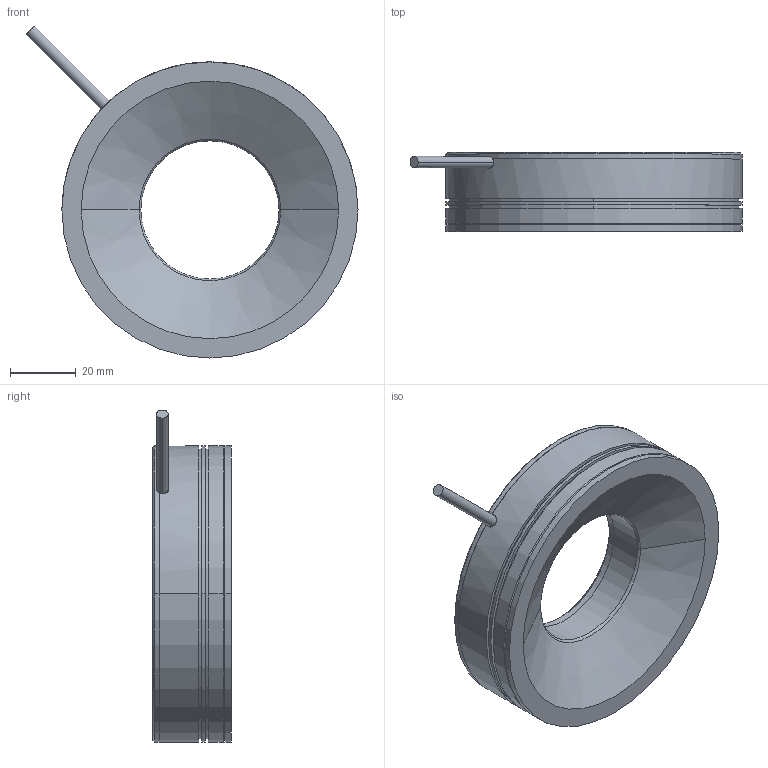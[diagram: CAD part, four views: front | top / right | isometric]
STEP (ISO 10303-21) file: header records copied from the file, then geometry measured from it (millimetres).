
FILE_DESCRIPTION((''),'2;1');
FILE_NAME('P-RL-90-60_ASM','2019-07-02T',('win 10'),(''),'PRO/ENGINEER BY PARAMETRIC TECHNOLOGY CORPORATION, 2010100','PRO/ENGINEER BY PARAMETRIC TECHNOLOGY CORPORATION, 2010100','');
FILE_SCHEMA(('CONFIG_CONTROL_DESIGN'));
Length unit declared in the file: millimetre
Products named in the file (4): 1; 2; 4; P-RL-90-60_ASM
Assembly tree (3 placements, depth 2):
  P-RL-90-60_ASM
    1
    2
    4
Bounding box: 100.89 x 24 x 100.89 mm (x, y, z)
Volume: 53322.9 mm3; surface area: 43362.2 mm2
Topology: 4 solids, 12 shells, 138 faces, 315 edges, 194 vertices
Faces by surface type: cylinder 67, cone 33, plane 32, torus 4, bspline 2
Entity records: 4409 total; most frequent: CARTESIAN_POINT 1134, DIRECTION 756, ORIENTED_EDGE 566, AXIS2_PLACEMENT_3D 320, EDGE_CURVE 299, VERTEX_POINT 194, CIRCLE 175, EDGE_LOOP 169
